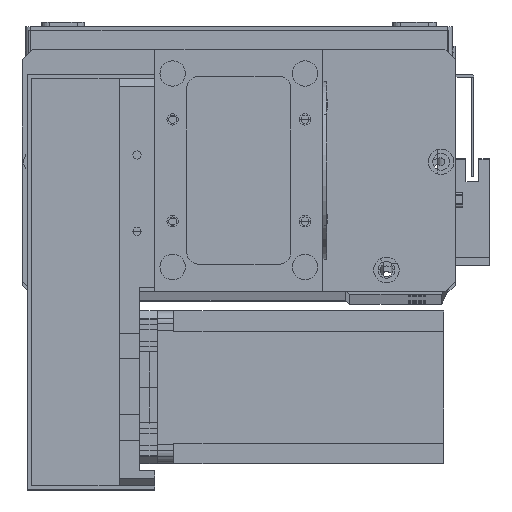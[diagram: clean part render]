
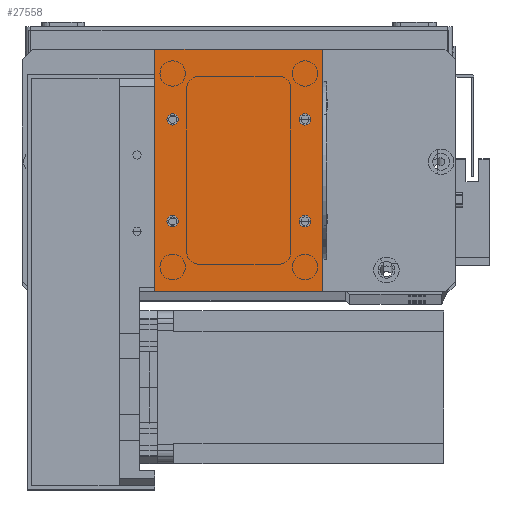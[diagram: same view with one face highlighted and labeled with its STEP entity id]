
A CAD part, top view. The second image highlights one B-rep face of the part: STEP entity #27558.
In plain terms, the highlighted planar face has unit normal (0, 0, 1).
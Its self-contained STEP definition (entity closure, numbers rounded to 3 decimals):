
#779 = CARTESIAN_POINT ( 'NONE',  ( 56.75, 67.5, 2. ) ) ;
#1287 = CARTESIAN_POINT ( 'NONE',  ( 0., 95., 2. ) ) ;
#1703 = DIRECTION ( 'NONE',  ( 1., 0., 0. ) ) ;
#1957 = ORIENTED_EDGE ( 'NONE', *, *, #28718, .F. ) ;
#2208 = CIRCLE ( 'NONE', #31335, 2.25 ) ;
#2550 = DIRECTION ( 'NONE',  ( 0., 0., 1. ) ) ;
#3672 = DIRECTION ( 'NONE',  ( -1., 0., 0. ) ) ;
#3877 = VECTOR ( 'NONE', #16067, 1000. ) ;
#3977 = EDGE_CURVE ( 'NONE', #13799, #12960, #23835, .T. ) ;
#4480 = LINE ( 'NONE', #15413, #23538 ) ;
#4589 = CIRCLE ( 'NONE', #30698, 2.25 ) ;
#5075 = FACE_BOUND ( 'NONE', #18431, .T. ) ;
#5078 = DIRECTION ( 'NONE',  ( 0., 0., 1. ) ) ;
#5569 = ORIENTED_EDGE ( 'NONE', *, *, #21699, .F. ) ;
#6051 = CARTESIAN_POINT ( 'NONE',  ( 4.75, 27.5, 2. ) ) ;
#6132 = DIRECTION ( 'NONE',  ( 0., 0., 1. ) ) ;
#6195 = DIRECTION ( 'NONE',  ( 0., 0., 1. ) ) ;
#6570 = AXIS2_PLACEMENT_3D ( 'NONE', #11387, #19211, #3672 ) ;
#7013 = CARTESIAN_POINT ( 'NONE',  ( 56.75, 27.5, 2. ) ) ;
#7225 = EDGE_LOOP ( 'NONE', ( #30924, #21037, #11736, #22831 ) ) ;
#7260 = CARTESIAN_POINT ( 'NONE',  ( 66., 95., 2. ) ) ;
#7300 = EDGE_CURVE ( 'NONE', #21243, #8838, #13989, .T. ) ;
#8483 = CARTESIAN_POINT ( 'NONE',  ( 59., 27.5, 2. ) ) ;
#8838 = VERTEX_POINT ( 'NONE', #13786 ) ;
#9045 = AXIS2_PLACEMENT_3D ( 'NONE', #8483, #26635, #11093 ) ;
#9117 = DIRECTION ( 'NONE',  ( -1., 0., 0. ) ) ;
#9197 = EDGE_CURVE ( 'NONE', #12960, #13799, #18353, .T. ) ;
#9727 = VERTEX_POINT ( 'NONE', #7260 ) ;
#10030 = DIRECTION ( 'NONE',  ( 0., 0., 1. ) ) ;
#10677 = CARTESIAN_POINT ( 'NONE',  ( 61.25, 67.5, 2. ) ) ;
#11006 = CARTESIAN_POINT ( 'NONE',  ( 7., 27.5, 2. ) ) ;
#11093 = DIRECTION ( 'NONE',  ( 1., 0., 0. ) ) ;
#11387 = CARTESIAN_POINT ( 'NONE',  ( 0., 0., 2. ) ) ;
#11487 = VECTOR ( 'NONE', #9117, 1000. ) ;
#11736 = ORIENTED_EDGE ( 'NONE', *, *, #27337, .T. ) ;
#11983 = FACE_OUTER_BOUND ( 'NONE', #7225, .T. ) ;
#12800 = DIRECTION ( 'NONE',  ( 1., 0., 0. ) ) ;
#12960 = VERTEX_POINT ( 'NONE', #16399 ) ;
#13280 = AXIS2_PLACEMENT_3D ( 'NONE', #32731, #17209, #1703 ) ;
#13597 = DIRECTION ( 'NONE',  ( 1., 0., 0. ) ) ;
#13695 = EDGE_CURVE ( 'NONE', #9727, #31143, #32163, .T. ) ;
#13786 = CARTESIAN_POINT ( 'NONE',  ( 61.25, 27.5, 2. ) ) ;
#13799 = VERTEX_POINT ( 'NONE', #25079 ) ;
#13989 = CIRCLE ( 'NONE', #9045, 2.25 ) ;
#15248 = ORIENTED_EDGE ( 'NONE', *, *, #22118, .F. ) ;
#15289 = EDGE_CURVE ( 'NONE', #20385, #21686, #4480, .T. ) ;
#15381 = EDGE_LOOP ( 'NONE', ( #5569, #15394 ) ) ;
#15394 = ORIENTED_EDGE ( 'NONE', *, *, #17043, .F. ) ;
#15413 = CARTESIAN_POINT ( 'NONE',  ( 0., 0., 2. ) ) ;
#15906 = EDGE_LOOP ( 'NONE', ( #17231, #1957 ) ) ;
#16067 = DIRECTION ( 'NONE',  ( 0., -1., 0. ) ) ;
#16360 = CARTESIAN_POINT ( 'NONE',  ( 0., 0., 2. ) ) ;
#16399 = CARTESIAN_POINT ( 'NONE',  ( 9.25, 67.5, 2. ) ) ;
#17043 = EDGE_CURVE ( 'NONE', #27519, #17845, #19394, .T. ) ;
#17209 = DIRECTION ( 'NONE',  ( 0., 0., 1. ) ) ;
#17231 = ORIENTED_EDGE ( 'NONE', *, *, #28359, .F. ) ;
#17551 = VERTEX_POINT ( 'NONE', #779 ) ;
#17845 = VERTEX_POINT ( 'NONE', #27841 ) ;
#17934 = AXIS2_PLACEMENT_3D ( 'NONE', #21726, #6195, #24330 ) ;
#18058 = CARTESIAN_POINT ( 'NONE',  ( 59., 27.5, 2. ) ) ;
#18273 = ORIENTED_EDGE ( 'NONE', *, *, #9197, .F. ) ;
#18353 = CIRCLE ( 'NONE', #23371, 2.25 ) ;
#18431 = EDGE_LOOP ( 'NONE', ( #18273, #28706 ) ) ;
#18433 = CARTESIAN_POINT ( 'NONE',  ( 0., 0., 2. ) ) ;
#19211 = DIRECTION ( 'NONE',  ( 0., 0., -1. ) ) ;
#19286 = EDGE_CURVE ( 'NONE', #31143, #20385, #31448, .T. ) ;
#19394 = CIRCLE ( 'NONE', #22776, 2.25 ) ;
#20385 = VERTEX_POINT ( 'NONE', #16360 ) ;
#20611 = CARTESIAN_POINT ( 'NONE',  ( 59., 67.5, 2. ) ) ;
#20674 = DIRECTION ( 'NONE',  ( 1., 0., 0. ) ) ;
#21037 = ORIENTED_EDGE ( 'NONE', *, *, #15289, .T. ) ;
#21243 = VERTEX_POINT ( 'NONE', #7013 ) ;
#21670 = CARTESIAN_POINT ( 'NONE',  ( 59., 67.5, 2. ) ) ;
#21686 = VERTEX_POINT ( 'NONE', #29434 ) ;
#21699 = EDGE_CURVE ( 'NONE', #17845, #27519, #23790, .T. ) ;
#21726 = CARTESIAN_POINT ( 'NONE',  ( 7., 27.5, 2. ) ) ;
#22118 = EDGE_CURVE ( 'NONE', #8838, #21243, #32302, .T. ) ;
#22776 = AXIS2_PLACEMENT_3D ( 'NONE', #11006, #29131, #13597 ) ;
#22831 = ORIENTED_EDGE ( 'NONE', *, *, #13695, .T. ) ;
#23216 = DIRECTION ( 'NONE',  ( 1., 0., 0. ) ) ;
#23371 = AXIS2_PLACEMENT_3D ( 'NONE', #25556, #10030, #28154 ) ;
#23404 = CARTESIAN_POINT ( 'NONE',  ( 66., 0., 2. ) ) ;
#23538 = VECTOR ( 'NONE', #12800, 1000. ) ;
#23790 = CIRCLE ( 'NONE', #17934, 2.25 ) ;
#23835 = CIRCLE ( 'NONE', #13280, 2.25 ) ;
#24265 = DIRECTION ( 'NONE',  ( 1., 0., 0. ) ) ;
#24330 = DIRECTION ( 'NONE',  ( 1., 0., 0. ) ) ;
#24969 = FACE_BOUND ( 'NONE', #31574, .T. ) ;
#25079 = CARTESIAN_POINT ( 'NONE',  ( 4.75, 67.5, 2. ) ) ;
#25398 = LINE ( 'NONE', #23404, #31450 ) ;
#25556 = CARTESIAN_POINT ( 'NONE',  ( 7., 67.5, 2. ) ) ;
#25781 = FACE_BOUND ( 'NONE', #15381, .T. ) ;
#26028 = DIRECTION ( 'NONE',  ( 0., 1., 0. ) ) ;
#26635 = DIRECTION ( 'NONE',  ( 0., 0., 1. ) ) ;
#27337 = EDGE_CURVE ( 'NONE', #21686, #9727, #25398, .T. ) ;
#27519 = VERTEX_POINT ( 'NONE', #6051 ) ;
#27558 = ADVANCED_FACE ( 'NONE', ( #5075, #31845, #24969, #25781, #11983 ), #32125, .F. ) ;
#27841 = CARTESIAN_POINT ( 'NONE',  ( 9.25, 27.5, 2. ) ) ;
#28154 = DIRECTION ( 'NONE',  ( 1., 0., 0. ) ) ;
#28215 = VERTEX_POINT ( 'NONE', #10677 ) ;
#28359 = EDGE_CURVE ( 'NONE', #28215, #17551, #2208, .T. ) ;
#28706 = ORIENTED_EDGE ( 'NONE', *, *, #3977, .F. ) ;
#28718 = EDGE_CURVE ( 'NONE', #17551, #28215, #4589, .T. ) ;
#29131 = DIRECTION ( 'NONE',  ( 0., 0., 1. ) ) ;
#29434 = CARTESIAN_POINT ( 'NONE',  ( 66., 0., 2. ) ) ;
#30491 = CARTESIAN_POINT ( 'NONE',  ( 0., 95., 2. ) ) ;
#30698 = AXIS2_PLACEMENT_3D ( 'NONE', #20611, #5078, #23216 ) ;
#30924 = ORIENTED_EDGE ( 'NONE', *, *, #19286, .T. ) ;
#31071 = ORIENTED_EDGE ( 'NONE', *, *, #7300, .F. ) ;
#31143 = VERTEX_POINT ( 'NONE', #30491 ) ;
#31192 = AXIS2_PLACEMENT_3D ( 'NONE', #18058, #2550, #20674 ) ;
#31335 = AXIS2_PLACEMENT_3D ( 'NONE', #21670, #6132, #24265 ) ;
#31448 = LINE ( 'NONE', #18433, #3877 ) ;
#31450 = VECTOR ( 'NONE', #26028, 1000. ) ;
#31574 = EDGE_LOOP ( 'NONE', ( #15248, #31071 ) ) ;
#31845 = FACE_BOUND ( 'NONE', #15906, .T. ) ;
#32125 = PLANE ( 'NONE',  #6570 ) ;
#32163 = LINE ( 'NONE', #1287, #11487 ) ;
#32302 = CIRCLE ( 'NONE', #31192, 2.25 ) ;
#32731 = CARTESIAN_POINT ( 'NONE',  ( 7., 67.5, 2. ) ) ;
